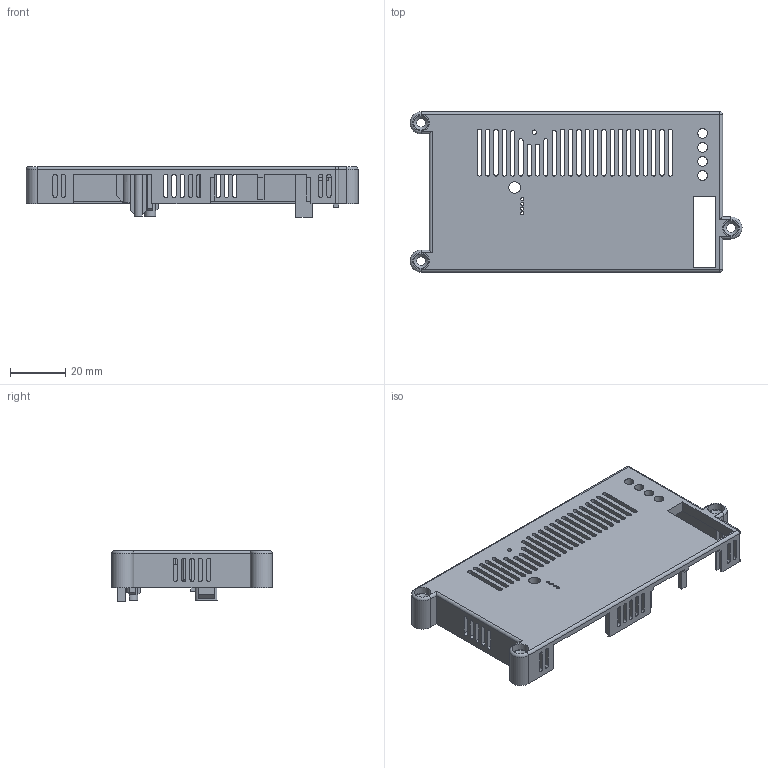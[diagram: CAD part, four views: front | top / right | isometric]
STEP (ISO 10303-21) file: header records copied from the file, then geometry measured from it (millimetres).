
FILE_DESCRIPTION(/* description */ (''),/* implementation_level */ '2;1');
FILE_NAME(/* name */ 'E:\Inventor-Dateien\GBMBoost_Master_XP_AKL_MEBP_KK\GBMBoost_Master_XP_AKL_MEBP_KK_TOP.stp',/* time_stamp */ '2022-02-07T13:16:29+01:00',/* author */ ('Hans'),/* organization */ (''),/* preprocessor_version */ 'ST-DEVELOPER v16.5',/* originating_system */ 'Autodesk Inventor 2017',/* authorisation */ '');
FILE_SCHEMA (('AUTOMOTIVE_DESIGN { 1 0 10303 214 3 1 1 }'));
Length unit declared in the file: millimetre
Products named in the file (1): GBMBoost_Wago_Molex_DC-DC_TOP
Bounding box: 120 x 58 x 18.4 mm (x, y, z)
Volume: 18895.1 mm3; surface area: 22844.9 mm2
Topology: 1 solids, 1 shells, 852 faces, 2385 edges, 1578 vertices
Faces by surface type: plane 511, bspline 193, cylinder 139, cone 4, torus 3, sphere 2
Full cylindrical faces by diameter (mm): 1.15 x4, 1.6 x1, 3.2 x3, 3.5 x4, 4.2 x1, 6 x4
Entity records: 28330 total; most frequent: CARTESIAN_POINT 7295, ORIENTED_EDGE 4716, DIRECTION 3582, EDGE_CURVE 2358, LINE 1678, VECTOR 1678, VERTEX_POINT 1571, EDGE_LOOP 1045
